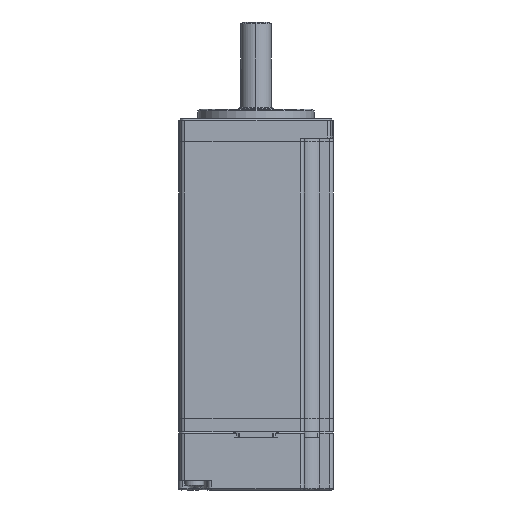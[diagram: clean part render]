
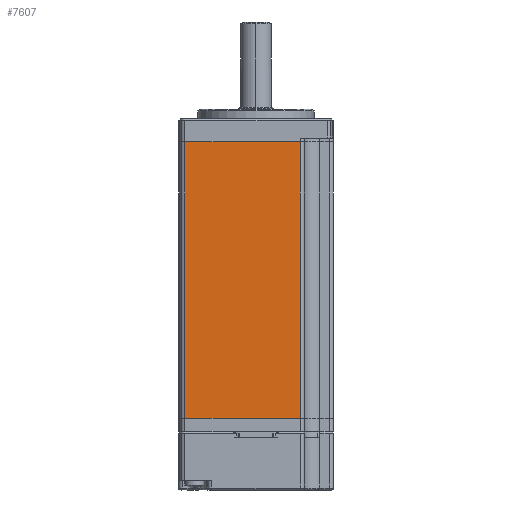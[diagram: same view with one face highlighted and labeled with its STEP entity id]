
A CAD part, front view. The second image highlights one B-rep face of the part: STEP entity #7607.
In plain terms, the highlighted planar face has unit normal (0, 1, 0).
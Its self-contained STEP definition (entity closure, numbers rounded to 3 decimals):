
#14 = EDGE_CURVE ( 'NONE', #3722, #1050, #13970, .T. ) ;
#306 = CARTESIAN_POINT ( 'NONE',  ( -18.397, -20., 71.5 ) ) ;
#1050 = VERTEX_POINT ( 'NONE', #8065 ) ;
#1300 = PLANE ( 'NONE',  #17512 ) ;
#3722 = VERTEX_POINT ( 'NONE', #9105 ) ;
#3759 = ORIENTED_EDGE ( 'NONE', *, *, #7707, .T. ) ;
#4790 = CARTESIAN_POINT ( 'NONE',  ( -18.397, -20., 0. ) ) ;
#5425 = EDGE_LOOP ( 'NONE', ( #6102, #3759, #19523, #19097 ) ) ;
#5612 = CARTESIAN_POINT ( 'NONE',  ( 20., -20., 0. ) ) ;
#6102 = ORIENTED_EDGE ( 'NONE', *, *, #14, .T. ) ;
#7282 = VECTOR ( 'NONE', #13123, 1000. ) ;
#7607 = ADVANCED_FACE ( 'NONE', ( #17228 ), #1300, .T. ) ;
#7707 = EDGE_CURVE ( 'NONE', #1050, #23450, #19264, .T. ) ;
#7723 = CARTESIAN_POINT ( 'NONE',  ( -18.397, -20., 71.5 ) ) ;
#8065 = CARTESIAN_POINT ( 'NONE',  ( 11.5, -20., 0. ) ) ;
#8186 = VECTOR ( 'NONE', #24198, 1000. ) ;
#8840 = EDGE_CURVE ( 'NONE', #23450, #11699, #20402, .T. ) ;
#9032 = VECTOR ( 'NONE', #12557, 1000. ) ;
#9105 = CARTESIAN_POINT ( 'NONE',  ( 11.5, -20., 71.5 ) ) ;
#9725 = EDGE_CURVE ( 'NONE', #11699, #3722, #20927, .T. ) ;
#10373 = CARTESIAN_POINT ( 'NONE',  ( 20., -20., 71.5 ) ) ;
#11699 = VERTEX_POINT ( 'NONE', #7723 ) ;
#12145 = DIRECTION ( 'NONE',  ( 1., 0., 0. ) ) ;
#12554 = DIRECTION ( 'NONE',  ( 0., 0., 1. ) ) ;
#12557 = DIRECTION ( 'NONE',  ( 0., 0., -1. ) ) ;
#13123 = DIRECTION ( 'NONE',  ( 0., 0., 1. ) ) ;
#13970 = LINE ( 'NONE', #21935, #9032 ) ;
#17228 = FACE_OUTER_BOUND ( 'NONE', #5425, .T. ) ;
#17439 = VECTOR ( 'NONE', #12145, 1000. ) ;
#17512 = AXIS2_PLACEMENT_3D ( 'NONE', #21763, #23715, #12554 ) ;
#19097 = ORIENTED_EDGE ( 'NONE', *, *, #9725, .T. ) ;
#19264 = LINE ( 'NONE', #5612, #8186 ) ;
#19523 = ORIENTED_EDGE ( 'NONE', *, *, #8840, .T. ) ;
#20402 = LINE ( 'NONE', #306, #7282 ) ;
#20927 = LINE ( 'NONE', #10373, #17439 ) ;
#21763 = CARTESIAN_POINT ( 'NONE',  ( 20., -20., 71.5 ) ) ;
#21935 = CARTESIAN_POINT ( 'NONE',  ( 11.5, -20., 71.5 ) ) ;
#23450 = VERTEX_POINT ( 'NONE', #4790 ) ;
#23715 = DIRECTION ( 'NONE',  ( 0., 1., 0. ) ) ;
#24198 = DIRECTION ( 'NONE',  ( -1., 0., 0. ) ) ;
